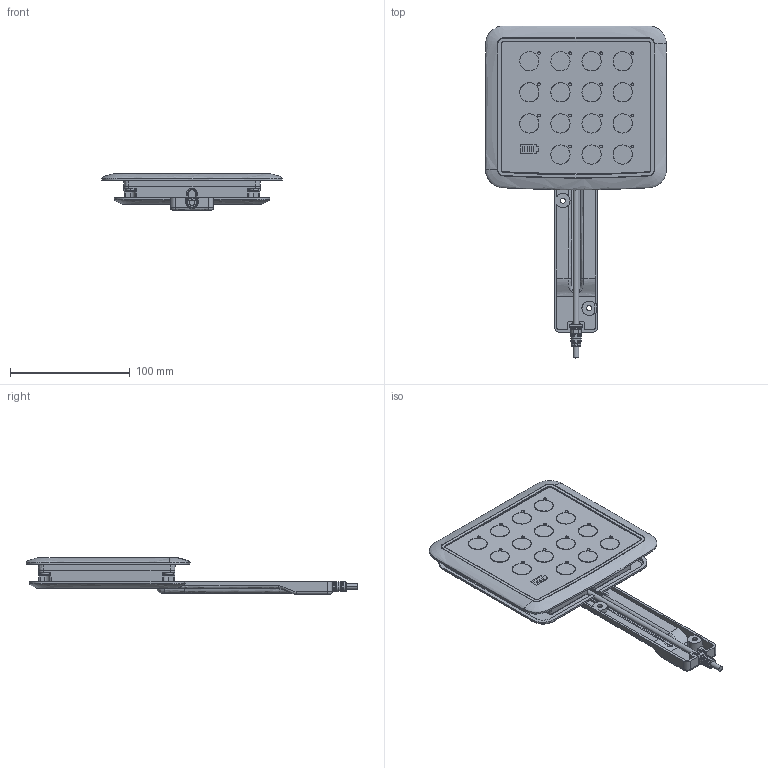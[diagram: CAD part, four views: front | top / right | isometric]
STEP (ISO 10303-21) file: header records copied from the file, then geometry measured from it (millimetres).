
FILE_DESCRIPTION(/* description */ (''),/* implementation_level */ '2;1');
FILE_NAME(/* name */ 'TNP4',/* time_stamp */ '2015-03-02T17:46:33+08:00',/* author */ (''),/* organization */ (''),/* preprocessor_version */ 'ST-DEVELOPER v15',/* originating_system */ '',/* authorisation */ '');
FILE_SCHEMA (('AUTOMOTIVE_DESIGN_CC2'));
Products named in the file (1): Document
Bounding box: 151 x 277.6 x 30.5 mm (x, y, z)
Volume: 346344.5 mm3; surface area: 162384.8 mm2
Topology: 12 solids, 19 shells, 1050 faces, 2685 edges, 1706 vertices
Faces by surface type: bspline 1050
Entity records: 142908 total; most frequent: CARTESIAN_POINT 108981, B_SPLINE_CURVE_WITH_KNOTS 7013, ORIENTED_EDGE 5294, PCURVE 5294, DEFINITIONAL_REPRESENTATION 5294, SURFACE_CURVE 2664, EDGE_CURVE 2664, VERTEX_POINT 1706
